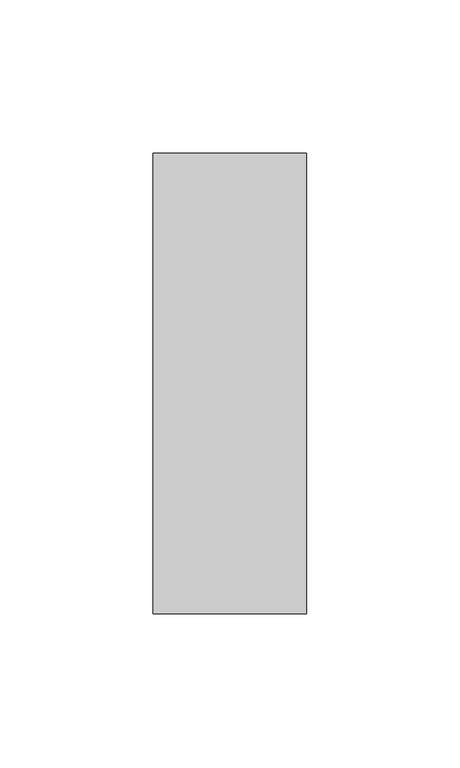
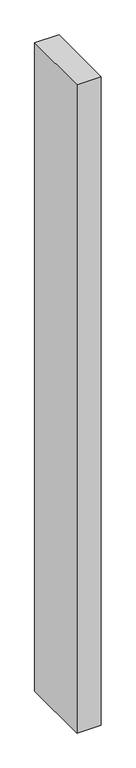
"""IFC4 building model written with IfcOpenShell, lengths in millimetres: member geometry, Прямоугольный импост : 50 x 150 мм."""

from ifc_helpers import new_model, si_unit, frame, origin, place, context, project, spatial, polyline, outline, extrude, source, transform, mapped, element, save


def member_34b5a37b(model_context):
    return source(origin(), model_context, "Body", "SweptSolid", [
        extrude(outline(polyline([(25.0, 75.0), (25.0, -75.0), (-25.0, -75.0), (-25.0, 75.0), (25.0, 75.0)])), frame((0.0, 0.0, -1408.0701679), z_axis=(0.0, 0.0, 1.0), x_axis=(1.0, 0.0, 0.0)), (0.0, 0.0, 1.0), 1408.0701679),
    ])


if __name__ == "__main__":
    model = new_model("IFC4")
    model_context = context("Model", 3, world=origin())
    ifc_project = project(units=[si_unit("LENGTHUNIT", "METRE", prefix="MILLI")], contexts=[model_context])
    site = spatial("IfcSite", under=ifc_project)
    building = spatial("IfcBuilding", under=site)
    placement = place(None, origin())
    member_shape = member_34b5a37b(model_context)
    element("IfcMember", 1, ObjectType="Прямоугольный импост : 50 x 150 мм", at=placement, inside=building, context=model_context, shape_type="MappedRepresentation", body=[
        mapped(member_shape, transform((0.0, 0.0, 0.0), x_axis=(1.0, 0.0, 0.0), y_axis=(0.0, 1.0, 0.0), z_axis=(0.0, 0.0, 1.0))),
    ])
    save(model, "model.ifc")
